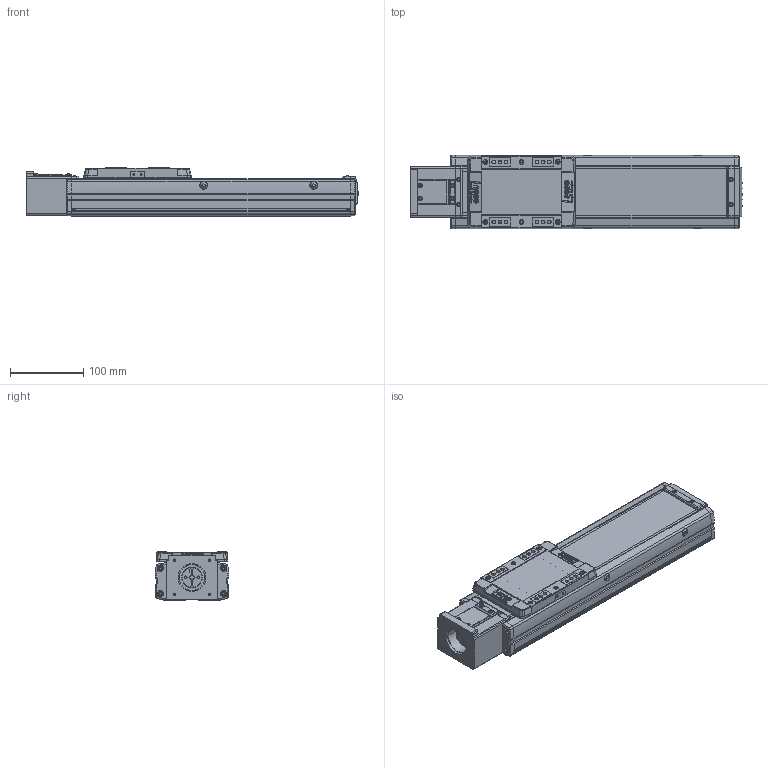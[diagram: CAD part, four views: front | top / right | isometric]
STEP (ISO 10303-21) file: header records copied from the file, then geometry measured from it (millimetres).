
FILE_DESCRIPTION(('STEP AP214'),'1');
FILE_NAME('Z:/Web/3D/SAN100/SAN100 양산용 (STEP)/SAN100ㅁㅁ-200S.stp','2013-04-25T00:44:12',(' '),(' '),'Spatial InterOp 3D',' ',' ');
FILE_SCHEMA(('automotive_design'));
Length unit declared in the file: millimetre
Products named in the file (40): MTHZ-SAN100-S56A; SDA26C-8-6.35; SSFX-SAN65; CPLCV-SAN65; M3.0 x 6.0; 스크루 : Round - M4.0 x 10.0; FRCV-SAN100; SUS COVER; SFX-SAN100; RRCV-SAN100; 스크루 : Round - M3.0 x 6.0; FRBL-SAN100; SLBL-SAN100; SLCV-SAN100; 스크루 : Countersunk - M3.0 x 6.0; BASE; 스크루 : Round - M5.0 x 6.0
Bounding box: 452.5 x 100 x 66 mm (x, y, z)
Volume: 1372241.6 mm3; surface area: 364838.2 mm2
Topology: 40 solids, 41 shells, 2372 faces, 6246 edges, 4043 vertices
Faces by surface type: plane 1137, cylinder 909, cone 209, sphere 52, torus 45, bspline 20
Entity records: 95070 total; most frequent: CARTESIAN_POINT 15027, DIRECTION 13222, ORIENTED_EDGE 12336, EDGE_CURVE 6168, AXIS2_PLACEMENT_3D 4833, VERTEX_POINT 4043, LINE 3556, VECTOR 3556
